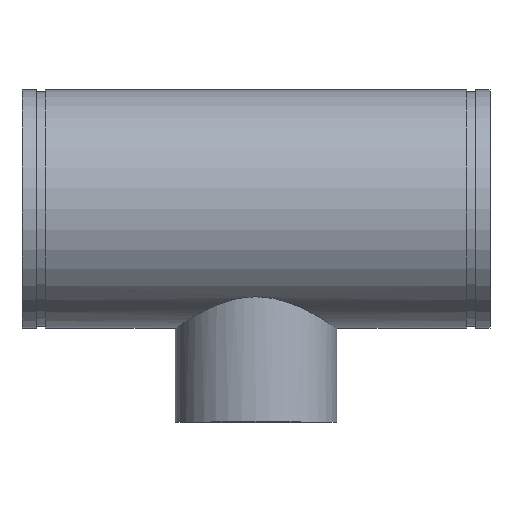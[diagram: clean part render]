
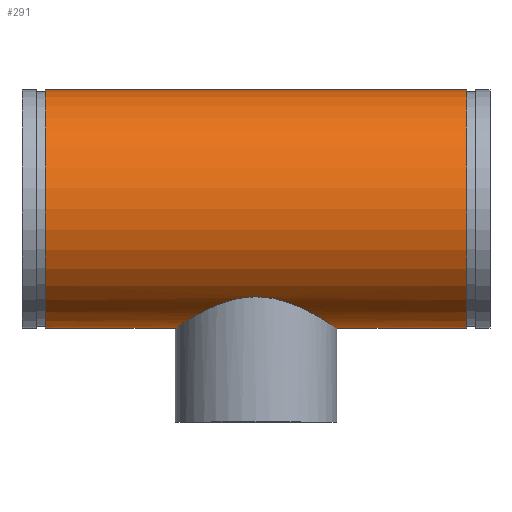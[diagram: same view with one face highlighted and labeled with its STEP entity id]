
A CAD part, top view. The second image highlights one B-rep face of the part: STEP entity #291.
In plain terms, the highlighted cylindrical face has radius 161.925 mm (diameter 323.85 mm), a full revolution.
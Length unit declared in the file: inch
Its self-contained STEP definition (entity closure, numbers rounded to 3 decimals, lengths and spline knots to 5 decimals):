
#45=B_SPLINE_CURVE_WITH_KNOTS('',3,(#511,#512,#513,#514,#515,#516,#517,
#518,#519,#520,#521,#522,#523,#524,#525,#526,#527,#528,#529,#530,#531,#532,
#533,#534,#535,#536,#537,#538,#539,#540,#541,#542,#543,#544,#545,#546,#547,
#548,#549,#550,#551,#552,#553,#554,#555,#556,#557,#558,#559,#560,#561,#562,
#563,#564,#565,#566),.UNSPECIFIED.,.F.,.F.,(4,2,2,2,2,2,2,2,2,2,2,2,2,2,
2,2,2,2,2,2,2,2,2,2,2,2,2,4),(0.,1.08261,2.16523,4.33045,
6.49568,8.66091,10.80041,12.93991,15.07941,
17.21892,19.35842,21.49792,23.63743,25.77693,
27.94215,30.10738,32.27261,33.35522,34.43783,
35.52045,36.60306,38.76829,40.93351,43.09874,
45.23824,47.37774,49.51725,51.65675),
 .UNSPECIFIED.);
#46=B_SPLINE_CURVE_WITH_KNOTS('',3,(#567,#568,#569,#570,#571,#572,#573,
#574,#575,#576,#577,#578,#579,#580,#581,#582,#583,#584,#585,#586),
 .UNSPECIFIED.,.F.,.F.,(4,2,2,2,2,2,2,2,2,4),(51.65675,53.79625,
55.93576,58.07526,60.21476,62.37999,64.54521,
66.71044,67.79305,68.87567),.UNSPECIFIED.);
#51=LINE('',#508,#59);
#59=VECTOR('',#410,6.375);
#67=CYLINDRICAL_SURFACE('',#338,6.375);
#77=FACE_BOUND('',#108,.T.);
#88=FACE_OUTER_BOUND('',#107,.T.);
#107=EDGE_LOOP('',(#221,#222,#223,#224));
#108=EDGE_LOOP('',(#225,#226));
#121=CIRCLE('',#321,6.375);
#132=CIRCLE('',#337,6.375);
#141=VERTEX_POINT('',#476);
#152=VERTEX_POINT('',#505);
#153=VERTEX_POINT('',#509);
#154=VERTEX_POINT('',#510);
#165=EDGE_CURVE('',#141,#141,#121,.T.);
#178=EDGE_CURVE('',#152,#152,#132,.T.);
#179=EDGE_CURVE('',#152,#141,#51,.T.);
#180=EDGE_CURVE('',#153,#154,#45,.T.);
#181=EDGE_CURVE('',#154,#153,#46,.T.);
#221=ORIENTED_EDGE('',*,*,#178,.T.);
#222=ORIENTED_EDGE('',*,*,#179,.T.);
#223=ORIENTED_EDGE('',*,*,#165,.T.);
#224=ORIENTED_EDGE('',*,*,#179,.F.);
#225=ORIENTED_EDGE('',*,*,#180,.F.);
#226=ORIENTED_EDGE('',*,*,#181,.F.);
#291=ADVANCED_FACE('',(#88,#77),#67,.T.);
#321=AXIS2_PLACEMENT_3D('',#477,#372,#373);
#337=AXIS2_PLACEMENT_3D('',#506,#406,#407);
#338=AXIS2_PLACEMENT_3D('',#507,#408,#409);
#372=DIRECTION('center_axis',(-1.,0.,0.));
#373=DIRECTION('ref_axis',(0.,-1.,0.));
#406=DIRECTION('center_axis',(1.,0.,0.));
#407=DIRECTION('ref_axis',(0.,-1.,0.));
#408=DIRECTION('center_axis',(-1.,0.,0.));
#409=DIRECTION('ref_axis',(0.,-1.,0.));
#410=DIRECTION('',(1.,0.,0.));
#476=CARTESIAN_POINT('',(11.25,6.375,0.));
#477=CARTESIAN_POINT('Origin',(11.25,0.,0.));
#505=CARTESIAN_POINT('',(-11.25,6.375,0.));
#506=CARTESIAN_POINT('Origin',(-11.25,0.,0.));
#507=CARTESIAN_POINT('Origin',(12.5,0.,0.));
#508=CARTESIAN_POINT('',(12.5,6.375,0.));
#509=CARTESIAN_POINT('',(0.,-4.69499,-4.3125));
#510=CARTESIAN_POINT('',(-4.3125,-6.375,0.));
#511=CARTESIAN_POINT('Ctrl Pts',(0.,-4.69499,
-4.3125));
#512=CARTESIAN_POINT('Ctrl Pts',(0.14208,-4.69499,-4.3125));
#513=CARTESIAN_POINT('Ctrl Pts',(0.2852,-4.7015,-4.30545));
#514=CARTESIAN_POINT('Ctrl Pts',(0.57099,-4.72745,-4.27694));
#515=CARTESIAN_POINT('Ctrl Pts',(0.71365,-4.74689,-4.25548));
#516=CARTESIAN_POINT('Ctrl Pts',(1.13733,-4.82279,-4.16979));
#517=CARTESIAN_POINT('Ctrl Pts',(1.41402,-4.89705,-4.08407));
#518=CARTESIAN_POINT('Ctrl Pts',(1.93987,-5.07393,-3.86212));
#519=CARTESIAN_POINT('Ctrl Pts',(2.1896,-5.17642,-3.7257));
#520=CARTESIAN_POINT('Ctrl Pts',(2.65061,-5.38765,-3.41313));
#521=CARTESIAN_POINT('Ctrl Pts',(2.8619,-5.49625,-3.2369));
#522=CARTESIAN_POINT('Ctrl Pts',(3.23467,-5.69929,-2.86413));
#523=CARTESIAN_POINT('Ctrl Pts',(3.41049,-5.80162,-2.65404));
#524=CARTESIAN_POINT('Ctrl Pts',(3.72379,-5.99116,-2.19289));
#525=CARTESIAN_POINT('Ctrl Pts',(3.86129,-6.07826,-1.94179));
#526=CARTESIAN_POINT('Ctrl Pts',(4.08465,-6.22254,-1.41272));
#527=CARTESIAN_POINT('Ctrl Pts',(4.17069,-6.27979,-1.13417));
#528=CARTESIAN_POINT('Ctrl Pts',(4.28464,-6.35604,-0.56821));
#529=CARTESIAN_POINT('Ctrl Pts',(4.3125,-6.375,-0.28077));
#530=CARTESIAN_POINT('Ctrl Pts',(4.3125,-6.375,0.28077));
#531=CARTESIAN_POINT('Ctrl Pts',(4.28464,-6.35604,0.56821));
#532=CARTESIAN_POINT('Ctrl Pts',(4.17069,-6.27979,1.13417));
#533=CARTESIAN_POINT('Ctrl Pts',(4.08465,-6.22254,1.41272));
#534=CARTESIAN_POINT('Ctrl Pts',(3.86129,-6.07826,1.94179));
#535=CARTESIAN_POINT('Ctrl Pts',(3.72379,-5.99116,2.19289));
#536=CARTESIAN_POINT('Ctrl Pts',(3.41049,-5.80162,2.65404));
#537=CARTESIAN_POINT('Ctrl Pts',(3.23467,-5.69929,2.86413));
#538=CARTESIAN_POINT('Ctrl Pts',(2.8619,-5.49625,3.2369));
#539=CARTESIAN_POINT('Ctrl Pts',(2.65061,-5.38765,3.41313));
#540=CARTESIAN_POINT('Ctrl Pts',(2.1896,-5.17642,3.7257));
#541=CARTESIAN_POINT('Ctrl Pts',(1.93987,-5.07393,3.86212));
#542=CARTESIAN_POINT('Ctrl Pts',(1.41402,-4.89705,4.08407));
#543=CARTESIAN_POINT('Ctrl Pts',(1.13733,-4.82279,4.16979));
#544=CARTESIAN_POINT('Ctrl Pts',(0.71365,-4.74689,4.25548));
#545=CARTESIAN_POINT('Ctrl Pts',(0.57099,-4.72745,4.27694));
#546=CARTESIAN_POINT('Ctrl Pts',(0.2852,-4.7015,4.30545));
#547=CARTESIAN_POINT('Ctrl Pts',(0.14208,-4.69499,4.3125));
#548=CARTESIAN_POINT('Ctrl Pts',(-0.14208,-4.69499,4.3125));
#549=CARTESIAN_POINT('Ctrl Pts',(-0.2852,-4.7015,4.30545));
#550=CARTESIAN_POINT('Ctrl Pts',(-0.57099,-4.72745,4.27694));
#551=CARTESIAN_POINT('Ctrl Pts',(-0.71365,-4.74689,4.25548));
#552=CARTESIAN_POINT('Ctrl Pts',(-1.13733,-4.82279,4.16979));
#553=CARTESIAN_POINT('Ctrl Pts',(-1.41402,-4.89705,4.08407));
#554=CARTESIAN_POINT('Ctrl Pts',(-1.93987,-5.07393,3.86212));
#555=CARTESIAN_POINT('Ctrl Pts',(-2.1896,-5.17642,3.7257));
#556=CARTESIAN_POINT('Ctrl Pts',(-2.65061,-5.38765,3.41313));
#557=CARTESIAN_POINT('Ctrl Pts',(-2.8619,-5.49625,3.2369));
#558=CARTESIAN_POINT('Ctrl Pts',(-3.23467,-5.69929,2.86413));
#559=CARTESIAN_POINT('Ctrl Pts',(-3.41049,-5.80162,2.65404));
#560=CARTESIAN_POINT('Ctrl Pts',(-3.72379,-5.99116,2.19289));
#561=CARTESIAN_POINT('Ctrl Pts',(-3.86129,-6.07826,1.94179));
#562=CARTESIAN_POINT('Ctrl Pts',(-4.08465,-6.22254,1.41272));
#563=CARTESIAN_POINT('Ctrl Pts',(-4.17069,-6.27979,1.13417));
#564=CARTESIAN_POINT('Ctrl Pts',(-4.28464,-6.35604,0.56821));
#565=CARTESIAN_POINT('Ctrl Pts',(-4.3125,-6.375,0.28077));
#566=CARTESIAN_POINT('Ctrl Pts',(-4.3125,-6.375,0.));
#567=CARTESIAN_POINT('Ctrl Pts',(-4.3125,-6.375,0.));
#568=CARTESIAN_POINT('Ctrl Pts',(-4.3125,-6.375,-0.28077));
#569=CARTESIAN_POINT('Ctrl Pts',(-4.28464,-6.35604,-0.56821));
#570=CARTESIAN_POINT('Ctrl Pts',(-4.17069,-6.27979,-1.13417));
#571=CARTESIAN_POINT('Ctrl Pts',(-4.08465,-6.22254,-1.41272));
#572=CARTESIAN_POINT('Ctrl Pts',(-3.86129,-6.07826,-1.94179));
#573=CARTESIAN_POINT('Ctrl Pts',(-3.72379,-5.99116,-2.19289));
#574=CARTESIAN_POINT('Ctrl Pts',(-3.41049,-5.80162,-2.65404));
#575=CARTESIAN_POINT('Ctrl Pts',(-3.23467,-5.69929,-2.86413));
#576=CARTESIAN_POINT('Ctrl Pts',(-2.8619,-5.49625,-3.2369));
#577=CARTESIAN_POINT('Ctrl Pts',(-2.65061,-5.38765,-3.41313));
#578=CARTESIAN_POINT('Ctrl Pts',(-2.1896,-5.17642,-3.7257));
#579=CARTESIAN_POINT('Ctrl Pts',(-1.93987,-5.07393,-3.86212));
#580=CARTESIAN_POINT('Ctrl Pts',(-1.41402,-4.89705,-4.08407));
#581=CARTESIAN_POINT('Ctrl Pts',(-1.13733,-4.82279,-4.16979));
#582=CARTESIAN_POINT('Ctrl Pts',(-0.71365,-4.74689,-4.25548));
#583=CARTESIAN_POINT('Ctrl Pts',(-0.57099,-4.72745,-4.27694));
#584=CARTESIAN_POINT('Ctrl Pts',(-0.2852,-4.7015,-4.30545));
#585=CARTESIAN_POINT('Ctrl Pts',(-0.14208,-4.69499,-4.3125));
#586=CARTESIAN_POINT('Ctrl Pts',(0.,-4.69499,-4.3125));
